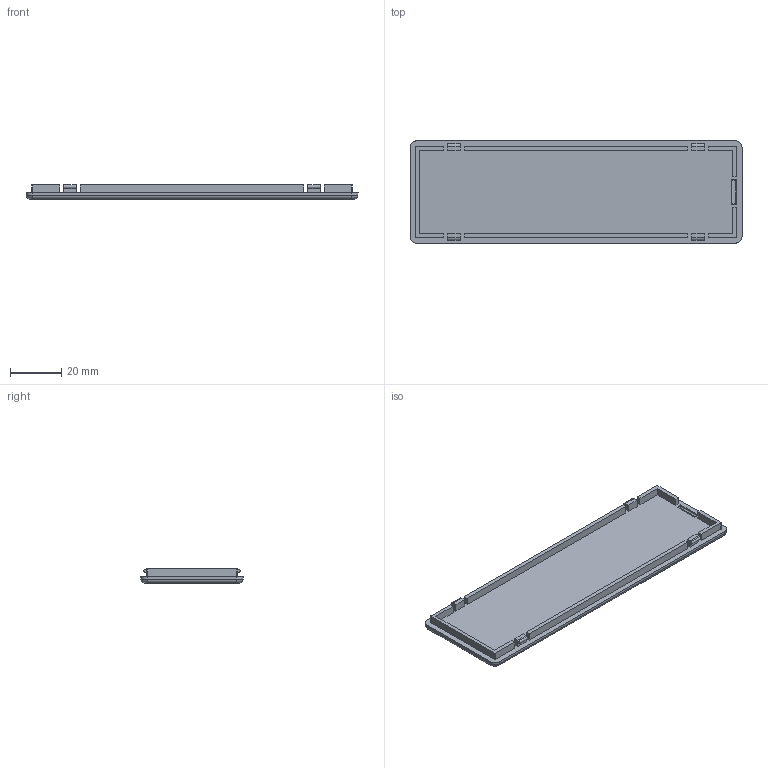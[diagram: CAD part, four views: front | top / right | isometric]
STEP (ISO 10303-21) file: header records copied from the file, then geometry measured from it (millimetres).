
FILE_DESCRIPTION((''),'2;1');
FILE_NAME('E:\Eng\Customer Service\Drawings\1597\STEP\1597V - Lid.stp','2010-10-25T11:34:18',('tcook'),(''),'Autodesk Inventor 2011','Autodesk Inventor 2011','');
FILE_SCHEMA(('AUTOMOTIVE_DESIGN { 1 0 10303 214 1 1 1 1 }'));
Length unit declared in the file: inch
Products named in the file (1): 1597V - Lid
Bounding box: 129.54 x 39.88 x 5.59 mm (x, y, z)
Volume: 14286.8 mm3; surface area: 12854.5 mm2
Topology: 1 solids, 1 shells, 96 faces, 240 edges, 156 vertices
Faces by surface type: plane 72, cylinder 16, bspline 8
Entity records: 3180 total; most frequent: CARTESIAN_POINT 865, ORIENTED_EDGE 480, DIRECTION 442, EDGE_CURVE 240, VECTOR 200, LINE 200, VERTEX_POINT 156, AXIS2_PLACEMENT_3D 121
